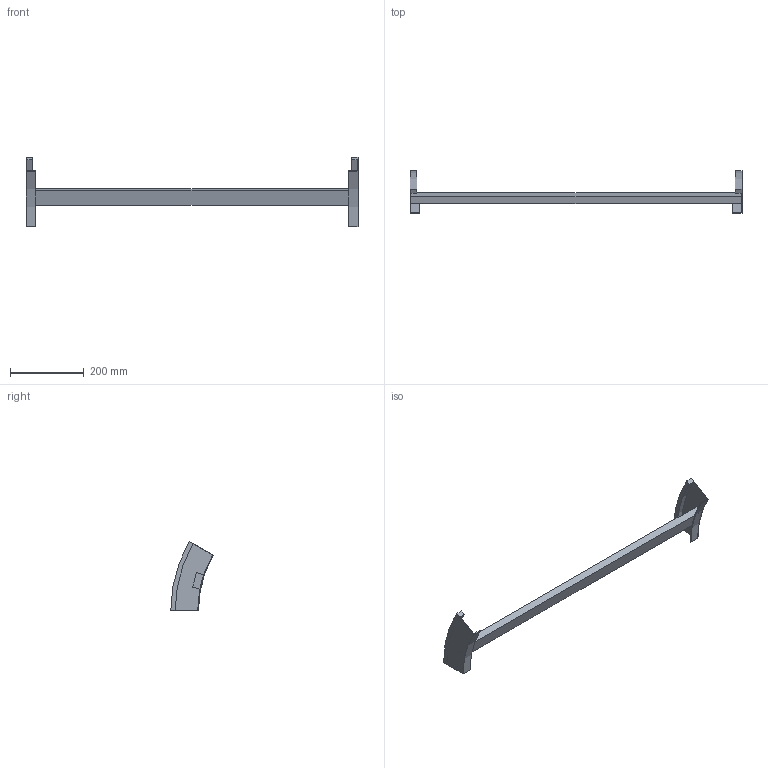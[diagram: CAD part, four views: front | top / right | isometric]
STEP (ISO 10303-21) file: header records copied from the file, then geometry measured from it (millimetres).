
FILE_DESCRIPTION (( 'STEP AP214' ), '1' );
FILE_NAME ('B2_35B3C900.step', '2025-02-21T14:50:46', ( '' ), ( '' ), 'SwSTEP 2.0', 'SolidWorks 2023', '' );
FILE_SCHEMA (( 'AUTOMOTIVE_DESIGN' ));
Length unit declared in the file: millimetre
Products named in the file (3): B2_35B3C900; B2_LONGH.DISCESA_30°_H75_R300; TRAVERSINO_900
Assembly tree (3 placements, depth 2):
  B2_35B3C900
    B2_LONGH.DISCESA_30°_H75_R300  x2
    TRAVERSINO_900
Bounding box: 900 x 115.19 x 187.5 mm (x, y, z)
Volume: 868726.6 mm3; surface area: 194157.7 mm2
Topology: 3 solids, 3 shells, 26 faces, 60 edges, 40 vertices
Faces by surface type: plane 18, cylinder 8
Entity records: 544 total; most frequent: DIRECTION 88, CARTESIAN_POINT 82, ORIENTED_EDGE 72, EDGE_CURVE 36, AXIS2_PLACEMENT_3D 30, LINE 28, VECTOR 28, VERTEX_POINT 24
